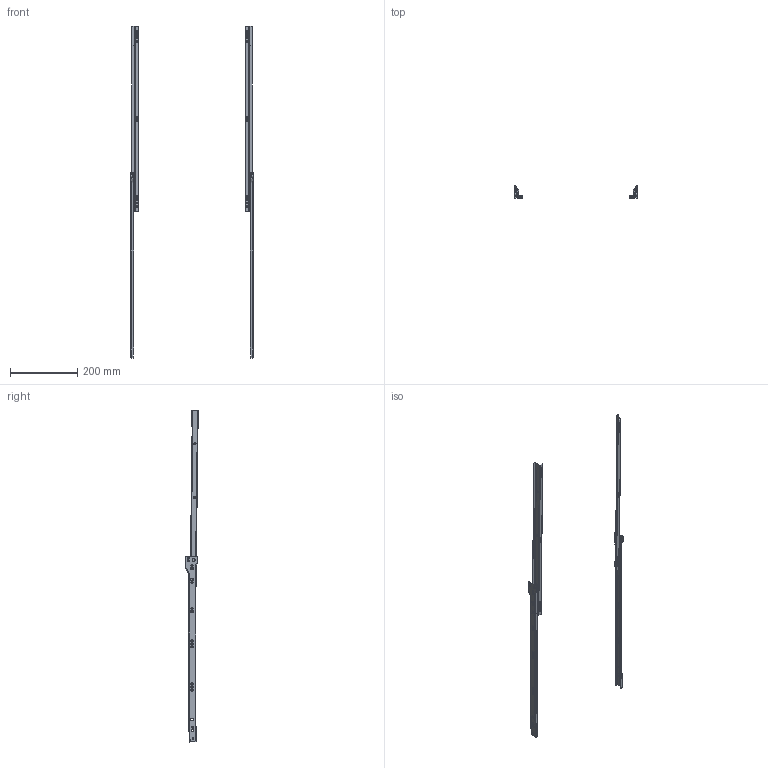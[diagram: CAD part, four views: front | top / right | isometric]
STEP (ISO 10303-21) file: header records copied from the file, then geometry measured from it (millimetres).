
FILE_DESCRIPTION(/* description */ (''),/* implementation_level */ '2;1');
FILE_NAME(/* name */ 'D:\$Workingspace\Designs\Katalog\Cadsoft\GTV Prowadnice\Prowadnice GTV_bryły 3D\PR-0B-550-10_wysunieta.stp',/* time_stamp */ '2016-11-22T15:18:18+01:00',/* author */ ('tomaszw'),/* organization */ (''),/* preprocessor_version */ 'ST-DEVELOPER v16.1',/* originating_system */ 'Autodesk Inventor 2016',/* authorisation */ '');
FILE_SCHEMA (('AUTOMOTIVE_DESIGN { 1 0 10303 214 3 1 1 }'));
Length unit declared in the file: millimetre
Products named in the file (5): PR-0B-550-10_CL; PR-0B-550-10_CR; PR-0B-550-10_DL; PR-0B-550-10_DR; PR-0B
Assembly tree (4 placements, depth 2):
  PR-0B
    PR-0B-550-10_CL
    PR-0B-550-10_CR
    PR-0B-550-10_DL
    PR-0B-550-10_DR
Bounding box: 364 x 36.96 x 985 mm (x, y, z)
Volume: 78871.5 mm3; surface area: 169905.9 mm2
Topology: 4 solids, 4 shells, 434 faces, 1086 edges, 672 vertices
Faces by surface type: cylinder 190, plane 154, cone 54, torus 28, sphere 8
Full cylindrical faces by diameter (mm): 5 x2, 5.2 x26, 5.4 x10, 6.2 x10, 7 x4, 8 x4, 18.5 x4
Entity records: 13214 total; most frequent: DIRECTION 2288, CARTESIAN_POINT 2239, ORIENTED_EDGE 1928, EDGE_CURVE 964, AXIS2_PLACEMENT_3D 889, EDGE_LOOP 684, VERTEX_POINT 664, LINE 510
